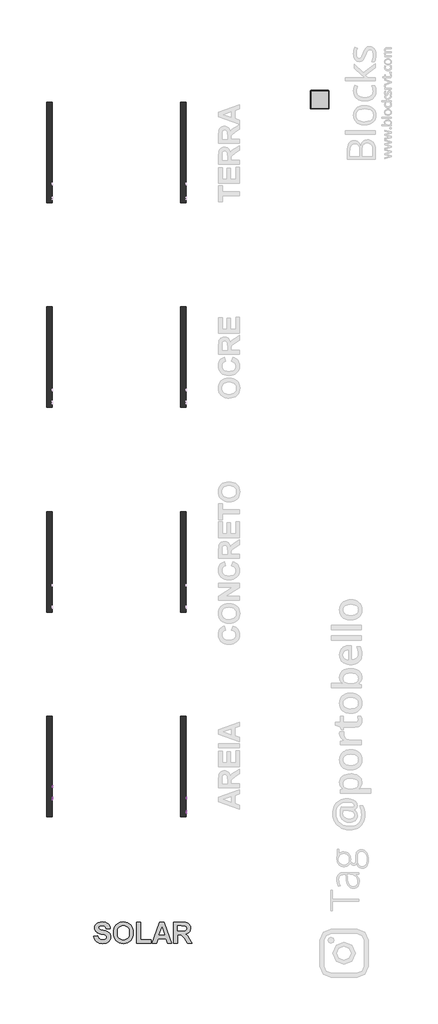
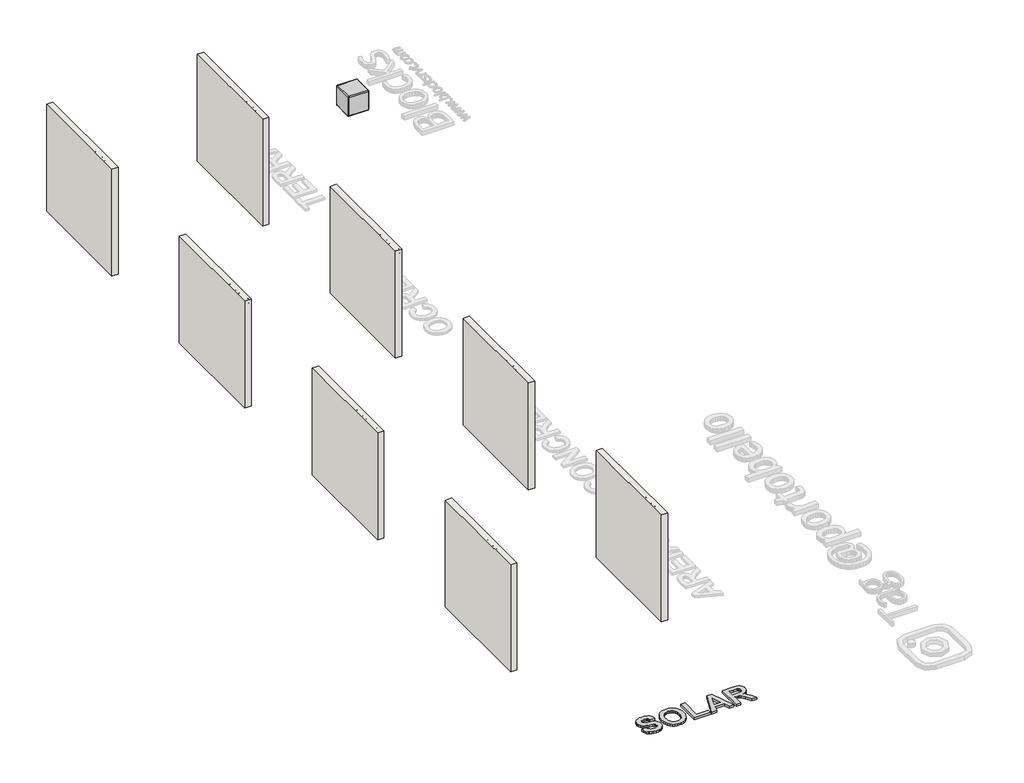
# One storey, part 1 of 6: 8 walls, 5 proxies, 1 furniture element.
"""IFC4 building model written with IfcOpenShell, lengths in millimetres."""

from ifc_helpers import new_model, si_unit, frame, origin, origin_with_axes, place, context, project, spatial, polyline, outline, extrude, transform, mapped, element, save
from components import branco_22256ad2

model = new_model("IFC4")

# Units and contexts
model_context = context("Model", 3, world=origin())
ifc_project = project(units=[si_unit("LENGTHUNIT", "METRE", prefix="MILLI")], contexts=[model_context])

# Site, building, storey
site = spatial("IfcSite", under=ifc_project)
building = spatial("IfcBuilding", under=site)
storey = spatial("IfcBuildingStorey", under=building, Name="PORTOBELLO - SHOWROOM", Elevation=0.0)

# Proxies
placement = place(None, origin())
element("IfcBuildingElementProxy", 1, Name="10mm Arial", ObjectType="10mm Arial", at=placement, inside=storey, context=model_context, shape_type="SweptSolid", body=[
    extrude(outline(polyline([(-9219.6411728, 2518.4745677), (-9179.5420353, 2618.9308778), (-9168.848932, 2618.9308778), (-9128.7497945, 2518.4745677), (-9142.0180718, 2518.4745677), (-9153.5205155, 2549.8671646), (-9194.8949773, 2549.8671646), (-9206.3728955, 2518.4745677), (-9219.6411728, 2518.4745677)]), holes=[polyline([(-9190.2841896, 2562.4242034), (-9158.1067778, 2562.4242034), (-9167.1566748, 2587.121348), (-9174.1954837, 2606.373839), (-9180.4494776, 2589.279589), (-9190.2841896, 2562.4242034)])]), frame((-22426.2609603, 0.0, 0.0), z_axis=(1.0, 0.0, 0.0), x_axis=(0.0, 1.0, 0.0)), (0.0, 0.0, 1.0), 20.0),
    extrude(outline(polyline([(-9116.9039943, 2518.4745677), (-9116.9039943, 2592.2471704), (-9105.9165854, 2592.2471704), (-9105.9165854, 2581.3333379), (-9098.1174871, 2591.3887791), (-9090.2693378, 2593.8168003), (-9077.6632481, 2589.9417766), (-9081.8571029, 2578.6845875), (-9090.6862708, 2581.2597615), (-9097.7863933, 2578.7826894), (-9102.3113418, 2571.9155588), (-9104.3469555, 2557.24933), (-9104.3469555, 2518.4745677), (-9116.9039943, 2518.4745677)])), frame((-22426.2609603, 0.0, 0.0), z_axis=(1.0, 0.0, 0.0), x_axis=(0.0, 1.0, 0.0)), (0.0, 0.0, 1.0), 20.0),
    extrude(outline(polyline([(-9018.1644668, 2540.4493855), (-9005.8526827, 2538.8797557), (-9010.2887264, 2529.602998), (-9017.3673891, 2522.6684224), (-9026.9292553, 2518.345809), (-9038.8149094, 2516.9049378), (-9053.5485834, 2519.391207), (-9064.8854802, 2526.8500144), (-9072.1143614, 2538.7969822), (-9074.5239884, 2554.7477324), (-9072.0898359, 2571.2349771), (-9064.7873783, 2583.5651553), (-9053.6037657, 2591.253889), (-9039.526148, 2593.8168003), (-9025.886923, 2591.2600204), (-9014.9884189, 2583.5896808), (-9007.8423111, 2571.2840281), (-9005.4602752, 2554.8213088), (-9005.5338516, 2551.4367944), (-9061.9669497, 2551.4367944), (-9059.7933802, 2542.0374095), (-9054.7441998, 2535.1273593), (-9047.4570707, 2530.8783223), (-9038.5696548, 2529.4619766), (-9026.2578707, 2532.0862015), (-9018.1644668, 2540.4493855)]), holes=[polyline([(-9061.9669497, 2563.9938332), (-9018.017314, 2563.9938332), (-9023.0450346, 2575.3736496), (-9030.3658863, 2579.7882335), (-9039.5751989, 2581.2597615), (-9055.0385054, 2576.5631347), (-9059.9037448, 2571.0724959), (-9061.9669497, 2563.9938332)])]), frame((-22426.2609603, 0.0, 0.0), z_axis=(1.0, 0.0, 0.0), x_axis=(0.0, 1.0, 0.0)), (0.0, 0.0, 1.0), 20.0),
    extrude(outline(polyline([(-22406.2609603, -8980.3461977), (-22406.2609603, -8992.9032364), (-22426.2609603, -8992.9032364), (-22426.2609603, -8980.3461977), (-22406.2609603, -8980.3461977)])), frame((0.0, 0.0, 2606.373839), z_axis=(0.0, 0.0, 1.0), x_axis=(1.0, 0.0, 0.0)), (0.0, 0.0, 1.0), 12.5570388),
    extrude(outline(polyline([(-22406.2609603, -8980.3461977), (-22406.2609603, -8992.9032364), (-22426.2609603, -8992.9032364), (-22426.2609603, -8980.3461977), (-22406.2609603, -8980.3461977)])), frame((0.0, 0.0, 2518.4745677), z_axis=(0.0, 0.0, 1.0), x_axis=(1.0, 0.0, 0.0)), (0.0, 0.0, 1.0), 73.7726028),
    extrude(outline(polyline([(-8914.4217441, 2527.8923467), (-8926.5986382, 2519.3820099), (-8940.0508565, 2516.9049378), (-8950.5446904, 2518.3948599), (-8958.2855407, 2522.8646261), (-8963.0588096, 2529.6520489), (-8964.6498992, 2538.0949407), (-8962.2464035, 2548.0277546), (-8955.9310959, 2555.2382417), (-8947.1387162, 2559.3585201), (-8936.2739347, 2561.246981), (-8914.4953205, 2565.563463), (-8914.4217441, 2568.3593662), (-8917.8798349, 2577.6299925), (-8931.7612489, 2581.2597615), (-8944.4654404, 2578.8440031), (-8950.5232306, 2570.2723526), (-8963.0802694, 2571.8419824), (-8957.6478786, 2584.1047156), (-8946.7095206, 2591.2906772), (-8930.1425681, 2593.8168003), (-8914.9245162, 2591.5849828), (-8906.3283403, 2585.9809138), (-8902.477842, 2577.4583142), (-8901.8647054, 2566.4709053), (-8901.8647054, 2550.8481832), (-8901.2270433, 2529.0327809), (-8898.7254457, 2518.4745677), (-8911.2824845, 2518.4745677), (-8914.4217441, 2527.8923467)]), holes=[polyline([(-8914.4217441, 2553.0064243), (-8934.6797793, 2549.1559261), (-8945.4832473, 2547.1203124), (-8950.3760778, 2543.8093744), (-8952.0928605, 2538.9778575), (-8948.3527268, 2532.1843033), (-8937.3775806, 2529.4619766), (-8924.6733891, 2532.4663462), (-8916.4818833, 2539.738147), (-8914.4953205, 2549.4502317), (-8914.4217441, 2553.0064243)])]), frame((-22426.2609603, 0.0, 0.0), z_axis=(1.0, 0.0, 0.0), x_axis=(0.0, 1.0, 0.0)), (0.0, 0.0, 1.0), 20.0),
    extrude(outline(polyline([(-8814.1125868, 2518.4745677), (-8854.0890969, 2618.9308778), (-8840.6491414, 2618.9308778), (-8813.8918576, 2546.5562266), (-8808.4717295, 2530.2467915), (-8803.1251779, 2546.5562266), (-8776.2943177, 2618.9308778), (-8762.8543621, 2618.9308778), (-8801.1386151, 2518.4745677), (-8814.1125868, 2518.4745677)])), frame((-22426.2609603, 0.0, 0.0), z_axis=(1.0, 0.0, 0.0), x_axis=(0.0, 1.0, 0.0)), (0.0, 0.0, 1.0), 20.0),
    extrude(outline(polyline([(-22406.2609603, -8740.1928312), (-22406.2609603, -8752.74987), (-22426.2609603, -8752.74987), (-22426.2609603, -8740.1928312), (-22406.2609603, -8740.1928312)])), frame((0.0, 0.0, 2518.4745677), z_axis=(0.0, 0.0, 1.0), x_axis=(1.0, 0.0, 0.0)), (0.0, 0.0, 1.0), 73.7726028),
    extrude(outline(polyline([(-22406.2609603, -8740.1928312), (-22406.2609603, -8752.74987), (-22426.2609603, -8752.74987), (-22426.2609603, -8740.1928312), (-22406.2609603, -8740.1928312)])), frame((0.0, 0.0, 2606.373839), z_axis=(0.0, 0.0, 1.0), x_axis=(1.0, 0.0, 0.0)), (0.0, 0.0, 1.0), 12.5570388),
    extrude(outline(polyline([(-8724.4965328, 2512.1960483), (-8711.939494, 2510.6264184), (-8707.8682666, 2504.0045425), (-8695.6791098, 2501.2086394), (-8682.8277654, 2504.3724245), (-8676.6963989, 2513.2506433), (-8675.8380075, 2527.8923467), (-8684.6794382, 2520.8290124), (-8695.4583806, 2518.4745677), (-8708.4047612, 2521.2152885), (-8718.0585979, 2529.4374511), (-8724.0642714, 2541.4917178), (-8726.0661626, 2555.728751), (-8722.4731818, 2575.1897086), (-8712.0743841, 2588.9607579), (-8696.0715173, 2593.8168003), (-8684.8695105, 2591.069948), (-8675.8380075, 2582.8293914), (-8675.8380075, 2592.2471704), (-8663.2809688, 2592.2471704), (-8663.2809688, 2528.5545343), (-8666.7145341, 2504.1639581), (-8677.5915784, 2492.8209299), (-8695.9243645, 2488.6516006), (-8707.6076835, 2490.1200629), (-8716.8077991, 2494.5254498), (-8722.7092394, 2501.880024), (-8724.4965328, 2512.1960483)]), holes=[polyline([(-8713.5091238, 2556.5871424), (-8712.1694202, 2545.0693702), (-8708.1503094, 2537.1507103), (-8702.1078477, 2532.5613824), (-8694.6980912, 2531.0316064), (-8687.3435169, 2532.5521853), (-8681.2703983, 2537.1139221), (-8677.1961052, 2544.9314145), (-8675.8380075, 2556.2192604), (-8677.2359591, 2567.1055017), (-8681.4298139, 2574.9444539), (-8687.5918373, 2579.6809346), (-8694.8942949, 2581.2597615), (-8702.0649281, 2579.7054601), (-8708.0767331, 2575.0425558), (-8712.1510261, 2567.3200996), (-8713.5091238, 2556.5871424)])]), frame((-22426.2609603, 0.0, 0.0), z_axis=(1.0, 0.0, 0.0), x_axis=(0.0, 1.0, 0.0)), (0.0, 0.0, 1.0), 20.0),
    extrude(outline(polyline([(-8597.3565152, 2527.8923467), (-8609.5334093, 2519.3820099), (-8622.9856276, 2516.9049378), (-8633.4794615, 2518.3948599), (-8641.2203118, 2522.8646261), (-8645.9935807, 2529.6520489), (-8647.5846703, 2538.0949407), (-8645.1811746, 2548.0277546), (-8638.865867, 2555.2382417), (-8630.0734873, 2559.3585201), (-8619.2087057, 2561.246981), (-8597.4300916, 2565.563463), (-8597.3565152, 2568.3593662), (-8600.814606, 2577.6299925), (-8614.6960199, 2581.2597615), (-8627.4002115, 2578.8440031), (-8633.4580017, 2570.2723526), (-8646.0150405, 2571.8419824), (-8640.5826497, 2584.1047156), (-8629.6442917, 2591.2906772), (-8613.0773392, 2593.8168003), (-8597.8592873, 2591.5849828), (-8589.2631113, 2585.9809138), (-8585.4126131, 2577.4583142), (-8584.7994765, 2566.4709053), (-8584.7994765, 2550.8481832), (-8584.1618143, 2529.0327809), (-8581.6602168, 2518.4745677), (-8594.2172555, 2518.4745677), (-8597.3565152, 2527.8923467)]), holes=[polyline([(-8597.3565152, 2553.0064243), (-8617.6145504, 2549.1559261), (-8628.4180184, 2547.1203124), (-8633.3108489, 2543.8093744), (-8635.0276315, 2538.9778575), (-8631.2874979, 2532.1843033), (-8620.3123517, 2529.4619766), (-8607.6081602, 2532.4663462), (-8599.4166544, 2539.738147), (-8597.4300916, 2549.4502317), (-8597.3565152, 2553.0064243)])]), frame((-22426.2609603, 0.0, 0.0), z_axis=(1.0, 0.0, 0.0), x_axis=(0.0, 1.0, 0.0)), (0.0, 0.0, 1.0), 20.0),
])
element("IfcBuildingElementProxy", 2, Name="10mm Arial", ObjectType="10mm Arial", at=placement, inside=storey, context=model_context, shape_type="SweptSolid", body=[
    extrude(outline(polyline([(-9219.6411728, 2518.4745677), (-9179.5420353, 2618.9308778), (-9168.848932, 2618.9308778), (-9128.7497945, 2518.4745677), (-9142.0180718, 2518.4745677), (-9153.5205155, 2549.8671646), (-9194.8949773, 2549.8671646), (-9206.3728955, 2518.4745677), (-9219.6411728, 2518.4745677)]), holes=[polyline([(-9190.2841896, 2562.4242034), (-9158.1067778, 2562.4242034), (-9167.1566748, 2587.121348), (-9174.1954837, 2606.373839), (-9180.4494776, 2589.279589), (-9190.2841896, 2562.4242034)])]), frame((-18826.2609603, 0.0, 0.0), z_axis=(1.0, 0.0, 0.0), x_axis=(0.0, 1.0, 0.0)), (0.0, 0.0, 1.0), 20.0),
    extrude(outline(polyline([(-9116.9039943, 2518.4745677), (-9116.9039943, 2592.2471704), (-9105.9165854, 2592.2471704), (-9105.9165854, 2581.3333379), (-9098.1174871, 2591.3887791), (-9090.2693378, 2593.8168003), (-9077.6632481, 2589.9417766), (-9081.8571029, 2578.6845875), (-9090.6862708, 2581.2597615), (-9097.7863933, 2578.7826894), (-9102.3113418, 2571.9155588), (-9104.3469555, 2557.24933), (-9104.3469555, 2518.4745677), (-9116.9039943, 2518.4745677)])), frame((-18826.2609603, 0.0, 0.0), z_axis=(1.0, 0.0, 0.0), x_axis=(0.0, 1.0, 0.0)), (0.0, 0.0, 1.0), 20.0),
    extrude(outline(polyline([(-9018.1644668, 2540.4493855), (-9005.8526827, 2538.8797557), (-9010.2887264, 2529.602998), (-9017.3673891, 2522.6684224), (-9026.9292553, 2518.345809), (-9038.8149094, 2516.9049378), (-9053.5485834, 2519.391207), (-9064.8854802, 2526.8500144), (-9072.1143614, 2538.7969822), (-9074.5239884, 2554.7477324), (-9072.0898359, 2571.2349771), (-9064.7873783, 2583.5651553), (-9053.6037657, 2591.253889), (-9039.526148, 2593.8168003), (-9025.886923, 2591.2600204), (-9014.9884189, 2583.5896808), (-9007.8423111, 2571.2840281), (-9005.4602752, 2554.8213088), (-9005.5338516, 2551.4367944), (-9061.9669497, 2551.4367944), (-9059.7933802, 2542.0374095), (-9054.7441998, 2535.1273593), (-9047.4570707, 2530.8783223), (-9038.5696548, 2529.4619766), (-9026.2578707, 2532.0862015), (-9018.1644668, 2540.4493855)]), holes=[polyline([(-9061.9669497, 2563.9938332), (-9018.017314, 2563.9938332), (-9023.0450346, 2575.3736496), (-9030.3658863, 2579.7882335), (-9039.5751989, 2581.2597615), (-9055.0385054, 2576.5631347), (-9059.9037448, 2571.0724959), (-9061.9669497, 2563.9938332)])]), frame((-18826.2609603, 0.0, 0.0), z_axis=(1.0, 0.0, 0.0), x_axis=(0.0, 1.0, 0.0)), (0.0, 0.0, 1.0), 20.0),
    extrude(outline(polyline([(-18806.2609603, -8980.3461977), (-18806.2609603, -8992.9032364), (-18826.2609603, -8992.9032364), (-18826.2609603, -8980.3461977), (-18806.2609603, -8980.3461977)])), frame((0.0, 0.0, 2606.373839), z_axis=(0.0, 0.0, 1.0), x_axis=(1.0, 0.0, 0.0)), (0.0, 0.0, 1.0), 12.5570388),
    extrude(outline(polyline([(-18806.2609603, -8980.3461977), (-18806.2609603, -8992.9032364), (-18826.2609603, -8992.9032364), (-18826.2609603, -8980.3461977), (-18806.2609603, -8980.3461977)])), frame((0.0, 0.0, 2518.4745677), z_axis=(0.0, 0.0, 1.0), x_axis=(1.0, 0.0, 0.0)), (0.0, 0.0, 1.0), 73.7726028),
    extrude(outline(polyline([(-8914.4217441, 2527.8923467), (-8926.5986382, 2519.3820099), (-8940.0508565, 2516.9049378), (-8950.5446904, 2518.3948599), (-8958.2855407, 2522.8646261), (-8963.0588096, 2529.6520489), (-8964.6498992, 2538.0949407), (-8962.2464035, 2548.0277546), (-8955.9310959, 2555.2382417), (-8947.1387162, 2559.3585201), (-8936.2739347, 2561.246981), (-8914.4953205, 2565.563463), (-8914.4217441, 2568.3593662), (-8917.8798349, 2577.6299925), (-8931.7612489, 2581.2597615), (-8944.4654404, 2578.8440031), (-8950.5232306, 2570.2723526), (-8963.0802694, 2571.8419824), (-8957.6478786, 2584.1047156), (-8946.7095206, 2591.2906772), (-8930.1425681, 2593.8168003), (-8914.9245162, 2591.5849828), (-8906.3283403, 2585.9809138), (-8902.477842, 2577.4583142), (-8901.8647054, 2566.4709053), (-8901.8647054, 2550.8481832), (-8901.2270433, 2529.0327809), (-8898.7254457, 2518.4745677), (-8911.2824845, 2518.4745677), (-8914.4217441, 2527.8923467)]), holes=[polyline([(-8914.4217441, 2553.0064243), (-8934.6797793, 2549.1559261), (-8945.4832473, 2547.1203124), (-8950.3760778, 2543.8093744), (-8952.0928605, 2538.9778575), (-8948.3527268, 2532.1843033), (-8937.3775806, 2529.4619766), (-8924.6733891, 2532.4663462), (-8916.4818833, 2539.738147), (-8914.4953205, 2549.4502317), (-8914.4217441, 2553.0064243)])]), frame((-18826.2609603, 0.0, 0.0), z_axis=(1.0, 0.0, 0.0), x_axis=(0.0, 1.0, 0.0)), (0.0, 0.0, 1.0), 20.0),
])
element("IfcBuildingElementProxy", 3, Name="10mm Arial Narrow", ObjectType="10mm Arial Narrow", at=placement, inside=storey, context=model_context, shape_type="SweptSolid", body=[
    extrude(outline(polyline([(-8520.6286257, 2518.4745677), (-8520.6286257, 2619.1931714), (-8489.3317411, 2619.1931714), (-8473.0360395, 2617.3148507), (-8461.5630534, 2607.8344075), (-8457.273375, 2590.8152987), (-8459.0596834, 2578.7394731), (-8464.4186086, 2569.1130794), (-8474.1623974, 2562.811821), (-8489.1032966, 2560.7114015), (-8510.8816641, 2560.7114015), (-8510.8816641, 2518.4745677), (-8520.6286257, 2518.4745677)]), holes=[polyline([(-8510.8816641, 2572.0828568), (-8487.9103091, 2572.0828568), (-8472.0461137, 2576.613671), (-8467.0203366, 2590.2822617), (-8469.4951511, 2600.4480381), (-8475.47278, 2606.247988), (-8488.1387536, 2607.8217162), (-8510.8816641, 2607.8217162), (-8510.8816641, 2572.0828568)])]), frame((-22426.2609603, 0.0, 0.0), z_axis=(1.0, 0.0, 0.0), x_axis=(0.0, 1.0, 0.0)), (0.0, 0.0, 1.0), 20.0),
    extrude(outline(polyline([(-8449.1509069, 2555.0256739), (-8447.1964381, 2571.6164494), (-8441.3330315, 2583.5685342), (-8432.4744647, 2590.7930888), (-8421.5345156, 2593.2012737), (-8410.72148, 2590.7930888), (-8401.8375306, 2583.5685342), (-8395.8979758, 2571.8068198), (-8393.9181242, 2555.7871552), (-8395.8630746, 2538.6252687), (-8401.6979257, 2526.4828135), (-8410.5469739, 2519.2582589), (-8421.5345156, 2516.8500741), (-8432.3951438, 2519.2646046), (-8441.2695747, 2526.5081962), (-8447.1805739, 2538.4666267), (-8449.1509069, 2555.0256739)]), holes=[polyline([(-8439.4039453, 2555.0510566), (-8438.0999084, 2542.4993052), (-8434.1877978, 2533.6280471), (-8428.3466011, 2528.3547886), (-8421.2553058, 2526.5970357), (-8414.5352326, 2528.3706528), (-8408.8431593, 2533.6915039), (-8404.9596042, 2542.5786262), (-8403.6650859, 2555.0510566), (-8404.9691228, 2567.5647339), (-8408.8812333, 2576.4233006), (-8414.7224301, 2581.6965592), (-8421.8137254, 2583.454312), (-8428.5813912, 2581.6870407), (-8434.263946, 2576.3852265), (-8438.1189455, 2567.5171413), (-8439.4039453, 2555.0510566)])]), frame((-22426.2609603, 0.0, 0.0), z_axis=(1.0, 0.0, 0.0), x_axis=(0.0, 1.0, 0.0)), (0.0, 0.0, 1.0), 20.0),
    extrude(outline(polyline([(-8322.4404054, 2526.5970357), (-8320.8159118, 2516.8500741), (-8328.1768985, 2516.8500741), (-8336.4516628, 2518.9695306), (-8340.766724, 2524.7694804), (-8341.9343288, 2539.4153056), (-8341.9343288, 2581.8298184), (-8350.0567968, 2581.8298184), (-8350.0567968, 2585.0788056), (-8351.6812904, 2580.2053248), (-8359.2453388, 2581.8298184), (-8365.3244985, 2579.5073002), (-8369.1953621, 2573.0220171), (-8371.1752137, 2557.6147106), (-8371.1752137, 2518.4745677), (-8380.9221754, 2518.4745677), (-8380.9221754, 2591.5767801), (-8371.1752137, 2591.5767801), (-8371.1752137, 2581.8805838), (-8364.9310664, 2590.967595), (-8358.5346228, 2593.2012737), (-8350.0567968, 2591.5767801), (-8341.9343288, 2591.5767801), (-8341.9343288, 2607.8217162), (-8332.1873671, 2615.9441842), (-8332.1873671, 2591.5767801), (-8322.4404054, 2591.5767801), (-8322.4404054, 2581.8298184), (-8332.1873671, 2581.8298184), (-8332.1873671, 2537.1816269), (-8331.3243549, 2529.1860724), (-8326.7047012, 2526.5970357), (-8322.4404054, 2526.5970357)])), frame((-22426.2609603, 0.0, 0.0), z_axis=(1.0, 0.0, 0.0), x_axis=(0.0, 1.0, 0.0)), (0.0, 0.0, 1.0), 20.0),
    extrude(outline(polyline([(-8315.942431, 2555.0256739), (-8313.9879621, 2571.6164494), (-8308.1245555, 2583.5685342), (-8299.2659888, 2590.7930888), (-8288.3260397, 2593.2012737), (-8277.5130041, 2590.7930888), (-8268.6290547, 2583.5685342), (-8262.6894999, 2571.8068198), (-8260.7096483, 2555.7871552), (-8262.6545987, 2538.6252687), (-8268.4894497, 2526.4828135), (-8277.3384979, 2519.2582589), (-8288.3260397, 2516.8500741), (-8299.1866678, 2519.2646046), (-8308.0610987, 2526.5081962), (-8313.9720979, 2538.4666267), (-8315.942431, 2555.0256739)]), holes=[polyline([(-8306.1954694, 2555.0510566), (-8304.8914325, 2542.4993052), (-8300.9793219, 2533.6280471), (-8295.1381252, 2528.3547886), (-8288.0468298, 2526.5970357), (-8281.3267567, 2528.3706528), (-8275.6346833, 2533.6915039), (-8271.7511283, 2542.5786262), (-8270.45661, 2555.0510566), (-8271.7606468, 2567.5647339), (-8275.6727574, 2576.4233006), (-8281.5139542, 2581.6965592), (-8288.6052495, 2583.454312), (-8295.3729153, 2581.6870407), (-8301.05547, 2576.3852265), (-8304.9104695, 2567.5171413), (-8306.1954694, 2555.0510566)])]), frame((-22426.2609603, 0.0, 0.0), z_axis=(1.0, 0.0, 0.0), x_axis=(0.0, 1.0, 0.0)), (0.0, 0.0, 1.0), 20.0),
    extrude(outline(polyline([(-8237.9667378, 2518.4745677), (-8247.7136994, 2518.4745677), (-8247.7136994, 2619.1931714), (-8237.9667378, 2619.1931714), (-8237.9667378, 2583.7842873), (-8230.5676771, 2590.8660641), (-8221.3664437, 2593.2012737), (-8208.4847171, 2589.0004347), (-8199.2073356, 2576.2710043), (-8195.729904, 2555.5840935), (-8197.662163, 2539.1297501), (-8203.45894, 2526.927011), (-8211.8320623, 2519.3693083), (-8221.4933573, 2516.8500741), (-8230.8341955, 2519.4644935), (-8237.9667378, 2527.2316035), (-8237.9667378, 2518.4745677)]), holes=[polyline([(-8237.9667378, 2555.5840935), (-8235.8853553, 2538.3365403), (-8229.996566, 2529.6048872), (-8221.5441227, 2526.5970357), (-8215.6013951, 2528.3865169), (-8210.3630378, 2533.7549607), (-8205.4768656, 2555.1779701), (-8210.1853588, 2576.613671), (-8215.4300618, 2581.7441518), (-8221.7471844, 2583.454312), (-8227.7248132, 2581.6648308), (-8233.0171088, 2576.2963871), (-8237.9667378, 2555.5840935)])]), frame((-22426.2609603, 0.0, 0.0), z_axis=(1.0, 0.0, 0.0), x_axis=(0.0, 1.0, 0.0)), (0.0, 0.0, 1.0), 20.0),
    extrude(outline(polyline([(-8143.7461085, 2541.2174782), (-8133.9991468, 2539.5929846), (-8137.6986772, 2529.706418), (-8143.5176641, 2522.5865671), (-8151.2213173, 2518.2841973), (-8160.5748469, 2516.8500741), (-8172.1684009, 2519.2646046), (-8181.3125232, 2526.5081962), (-8187.2520779, 2538.3143304), (-8189.2319295, 2554.4164888), (-8187.2425594, 2571.0834124), (-8181.2744491, 2583.2639417), (-8172.2604133, 2590.7169407), (-8161.1332666, 2593.2012737), (-8150.4503174, 2590.8026073), (-8141.7028001, 2583.6066083), (-8135.867949, 2571.8671037), (-8133.9229987, 2555.8379207), (-8133.9991468, 2552.5889335), (-8179.4849679, 2552.5889335), (-8173.4819563, 2533.1457756), (-8167.5519201, 2528.2342207), (-8160.4479334, 2526.5970357), (-8150.2694656, 2530.2521463), (-8143.7461085, 2541.2174782)]), holes=[polyline([(-8178.8250173, 2562.3358951), (-8143.7461085, 2562.3358951), (-8148.0104042, 2576.6009796), (-8153.8357367, 2581.7409789), (-8161.0571185, 2583.454312), (-8173.2662033, 2577.7432017), (-8178.8250173, 2562.3358951)])]), frame((-22426.2609603, 0.0, 0.0), z_axis=(1.0, 0.0, 0.0), x_axis=(0.0, 1.0, 0.0)), (0.0, 0.0, 1.0), 20.0),
    extrude(outline(polyline([(-22406.2609603, -8111.2562363), (-22406.2609603, -8121.0031979), (-22426.2609603, -8121.0031979), (-22426.2609603, -8111.2562363), (-22406.2609603, -8111.2562363)])), frame((0.0, 0.0, 2518.4745677), z_axis=(0.0, 0.0, 1.0), x_axis=(1.0, 0.0, 0.0)), (0.0, 0.0, 1.0), 100.7186038),
    extrude(outline(polyline([(-22406.2609603, -8085.2643385), (-22406.2609603, -8095.0113002), (-22426.2609603, -8095.0113002), (-22426.2609603, -8085.2643385), (-22406.2609603, -8085.2643385)])), frame((0.0, 0.0, 2518.4745677), z_axis=(0.0, 0.0, 1.0), x_axis=(1.0, 0.0, 0.0)), (0.0, 0.0, 1.0), 100.7186038),
    extrude(outline(polyline([(-8073.8928833, 2555.0256739), (-8071.9384144, 2571.6164494), (-8066.0750078, 2583.5685342), (-8057.2164411, 2590.7930888), (-8046.2764919, 2593.2012737), (-8035.4634563, 2590.7930888), (-8026.5795069, 2583.5685342), (-8020.6399522, 2571.8068198), (-8018.6601006, 2555.7871552), (-8020.6050509, 2538.6252687), (-8026.439902, 2526.4828135), (-8035.2889502, 2519.2582589), (-8046.2764919, 2516.8500741), (-8057.1371201, 2519.2646046), (-8066.011551, 2526.5081962), (-8071.9225502, 2538.4666267), (-8073.8928833, 2555.0256739)]), holes=[polyline([(-8064.1459216, 2555.0510566), (-8062.8418848, 2542.4993052), (-8058.9297742, 2533.6280471), (-8053.0885774, 2528.3547886), (-8045.9972821, 2526.5970357), (-8039.2772089, 2528.3706528), (-8033.5851356, 2533.6915039), (-8029.7015806, 2542.5786262), (-8028.4070622, 2555.0510566), (-8029.7110991, 2567.5647339), (-8033.6232097, 2576.4233006), (-8039.4644064, 2581.6965592), (-8046.5557018, 2583.454312), (-8053.3233675, 2581.6870407), (-8059.0059223, 2576.3852265), (-8062.8609218, 2567.5171413), (-8064.1459216, 2555.0510566)])]), frame((-22426.2609603, 0.0, 0.0), z_axis=(1.0, 0.0, 0.0), x_axis=(0.0, 1.0, 0.0)), (0.0, 0.0, 1.0), 20.0),
])
element("IfcBuildingElementProxy", 4, Name="10mm Arial Narrow", ObjectType="10mm Arial Narrow", at=placement, inside=storey, context=model_context, shape_type="SweptSolid", body=[
    extrude(outline(polyline([(-8830.6286257, 2518.4745677), (-8830.6286257, 2619.1931714), (-8799.3317411, 2619.1931714), (-8783.0360395, 2617.3148507), (-8771.5630534, 2607.8344075), (-8767.273375, 2590.8152987), (-8769.0596834, 2578.7394731), (-8774.4186086, 2569.1130794), (-8784.1623974, 2562.811821), (-8799.1032966, 2560.7114015), (-8820.8816641, 2560.7114015), (-8820.8816641, 2518.4745677), (-8830.6286257, 2518.4745677)]), holes=[polyline([(-8820.8816641, 2572.0828568), (-8797.9103091, 2572.0828568), (-8782.0461137, 2576.613671), (-8777.0203366, 2590.2822617), (-8779.4951511, 2600.4480381), (-8785.47278, 2606.247988), (-8798.1387536, 2607.8217162), (-8820.8816641, 2607.8217162), (-8820.8816641, 2572.0828568)])]), frame((-18826.2609603, 0.0, 0.0), z_axis=(1.0, 0.0, 0.0), x_axis=(0.0, 1.0, 0.0)), (0.0, 0.0, 1.0), 20.0),
    extrude(outline(polyline([(-8759.1509069, 2555.0256739), (-8757.1964381, 2571.6164494), (-8751.3330315, 2583.5685342), (-8742.4744647, 2590.7930888), (-8731.5345156, 2593.2012737), (-8720.72148, 2590.7930888), (-8711.8375306, 2583.5685342), (-8705.8979758, 2571.8068198), (-8703.9181242, 2555.7871552), (-8705.8630746, 2538.6252687), (-8711.6979257, 2526.4828135), (-8720.5469739, 2519.2582589), (-8731.5345156, 2516.8500741), (-8742.3951438, 2519.2646046), (-8751.2695747, 2526.5081962), (-8757.1805739, 2538.4666267), (-8759.1509069, 2555.0256739)]), holes=[polyline([(-8749.4039453, 2555.0510566), (-8748.0999084, 2542.4993052), (-8744.1877978, 2533.6280471), (-8738.3466011, 2528.3547886), (-8731.2553058, 2526.5970357), (-8724.5352326, 2528.3706528), (-8718.8431593, 2533.6915039), (-8714.9596042, 2542.5786262), (-8713.6650859, 2555.0510566), (-8714.9691228, 2567.5647339), (-8718.8812333, 2576.4233006), (-8724.7224301, 2581.6965592), (-8731.8137254, 2583.454312), (-8738.5813912, 2581.6870407), (-8744.263946, 2576.3852265), (-8748.1189455, 2567.5171413), (-8749.4039453, 2555.0510566)])]), frame((-18826.2609603, 0.0, 0.0), z_axis=(1.0, 0.0, 0.0), x_axis=(0.0, 1.0, 0.0)), (0.0, 0.0, 1.0), 20.0),
    extrude(outline(polyline([(-8632.4404054, 2526.5970357), (-8630.8159118, 2516.8500741), (-8638.1768985, 2516.8500741), (-8646.4516628, 2518.9695306), (-8650.766724, 2524.7694804), (-8651.9343288, 2539.4153056), (-8651.9343288, 2581.8298184), (-8660.0567968, 2581.8298184), (-8660.0567968, 2585.0788056), (-8661.6812904, 2580.2053248), (-8669.2453388, 2581.8298184), (-8675.3244985, 2579.5073002), (-8679.1953621, 2573.0220171), (-8681.1752137, 2557.6147106), (-8681.1752137, 2518.4745677), (-8690.9221754, 2518.4745677), (-8690.9221754, 2591.5767801), (-8681.1752137, 2591.5767801), (-8681.1752137, 2581.8805838), (-8674.9310664, 2590.967595), (-8668.5346228, 2593.2012737), (-8660.0567968, 2591.5767801), (-8651.9343288, 2591.5767801), (-8651.9343288, 2607.8217162), (-8642.1873671, 2615.9441842), (-8642.1873671, 2591.5767801), (-8632.4404054, 2591.5767801), (-8632.4404054, 2581.8298184), (-8642.1873671, 2581.8298184), (-8642.1873671, 2537.1816269), (-8641.3243549, 2529.1860724), (-8636.7047012, 2526.5970357), (-8632.4404054, 2526.5970357)])), frame((-18826.2609603, 0.0, 0.0), z_axis=(1.0, 0.0, 0.0), x_axis=(0.0, 1.0, 0.0)), (0.0, 0.0, 1.0), 20.0),
    extrude(outline(polyline([(-8625.942431, 2555.0256739), (-8623.9879621, 2571.6164494), (-8618.1245555, 2583.5685342), (-8609.2659888, 2590.7930888), (-8598.3260397, 2593.2012737), (-8587.5130041, 2590.7930888), (-8578.6290547, 2583.5685342), (-8572.6894999, 2571.8068198), (-8570.7096483, 2555.7871552), (-8572.6545987, 2538.6252687), (-8578.4894497, 2526.4828135), (-8587.3384979, 2519.2582589), (-8598.3260397, 2516.8500741), (-8609.1866678, 2519.2646046), (-8618.0610987, 2526.5081962), (-8623.9720979, 2538.4666267), (-8625.942431, 2555.0256739)]), holes=[polyline([(-8616.1954694, 2555.0510566), (-8614.8914325, 2542.4993052), (-8610.9793219, 2533.6280471), (-8605.1381252, 2528.3547886), (-8598.0468298, 2526.5970357), (-8591.3267567, 2528.3706528), (-8585.6346833, 2533.6915039), (-8581.7511283, 2542.5786262), (-8580.45661, 2555.0510566), (-8581.7606468, 2567.5647339), (-8585.6727574, 2576.4233006), (-8591.5139542, 2581.6965592), (-8598.6052495, 2583.454312), (-8605.3729153, 2581.6870407), (-8611.05547, 2576.3852265), (-8614.9104695, 2567.5171413), (-8616.1954694, 2555.0510566)])]), frame((-18826.2609603, 0.0, 0.0), z_axis=(1.0, 0.0, 0.0), x_axis=(0.0, 1.0, 0.0)), (0.0, 0.0, 1.0), 20.0),
    extrude(outline(polyline([(-8547.9667378, 2518.4745677), (-8557.7136994, 2518.4745677), (-8557.7136994, 2619.1931714), (-8547.9667378, 2619.1931714), (-8547.9667378, 2583.7842873), (-8540.5676771, 2590.8660641), (-8531.3664437, 2593.2012737), (-8518.4847171, 2589.0004347), (-8509.2073356, 2576.2710043), (-8505.729904, 2555.5840935), (-8507.662163, 2539.1297501), (-8513.45894, 2526.927011), (-8521.8320623, 2519.3693083), (-8531.4933573, 2516.8500741), (-8540.8341955, 2519.4644935), (-8547.9667378, 2527.2316035), (-8547.9667378, 2518.4745677)]), holes=[polyline([(-8547.9667378, 2555.5840935), (-8545.8853553, 2538.3365403), (-8539.996566, 2529.6048872), (-8531.5441227, 2526.5970357), (-8525.6013951, 2528.3865169), (-8520.3630378, 2533.7549607), (-8515.4768656, 2555.1779701), (-8520.1853588, 2576.613671), (-8525.4300618, 2581.7441518), (-8531.7471844, 2583.454312), (-8537.7248132, 2581.6648308), (-8543.0171088, 2576.2963871), (-8547.9667378, 2555.5840935)])]), frame((-18826.2609603, 0.0, 0.0), z_axis=(1.0, 0.0, 0.0), x_axis=(0.0, 1.0, 0.0)), (0.0, 0.0, 1.0), 20.0),
    extrude(outline(polyline([(-8453.7461085, 2541.2174782), (-8443.9991468, 2539.5929846), (-8447.6986772, 2529.706418), (-8453.5176641, 2522.5865671), (-8461.2213173, 2518.2841973), (-8470.5748469, 2516.8500741), (-8482.1684009, 2519.2646046), (-8491.3125232, 2526.5081962), (-8497.2520779, 2538.3143304), (-8499.2319295, 2554.4164888), (-8497.2425594, 2571.0834124), (-8491.2744491, 2583.2639417), (-8482.2604133, 2590.7169407), (-8471.1332666, 2593.2012737), (-8460.4503174, 2590.8026073), (-8451.7028001, 2583.6066083), (-8445.867949, 2571.8671037), (-8443.9229987, 2555.8379207), (-8443.9991468, 2552.5889335), (-8489.4849679, 2552.5889335), (-8483.4819563, 2533.1457756), (-8477.5519201, 2528.2342207), (-8470.4479334, 2526.5970357), (-8460.2694656, 2530.2521463), (-8453.7461085, 2541.2174782)]), holes=[polyline([(-8488.8250173, 2562.3358951), (-8453.7461085, 2562.3358951), (-8458.0104042, 2576.6009796), (-8463.8357367, 2581.7409789), (-8471.0571185, 2583.454312), (-8483.2662033, 2577.7432017), (-8488.8250173, 2562.3358951)])]), frame((-18826.2609603, 0.0, 0.0), z_axis=(1.0, 0.0, 0.0), x_axis=(0.0, 1.0, 0.0)), (0.0, 0.0, 1.0), 20.0),
    extrude(outline(polyline([(-18806.2609603, -8421.2562363), (-18806.2609603, -8431.0031979), (-18826.2609603, -8431.0031979), (-18826.2609603, -8421.2562363), (-18806.2609603, -8421.2562363)])), frame((0.0, 0.0, 2518.4745677), z_axis=(0.0, 0.0, 1.0), x_axis=(1.0, 0.0, 0.0)), (0.0, 0.0, 1.0), 100.7186038),
    extrude(outline(polyline([(-18806.2609603, -8395.2643385), (-18806.2609603, -8405.0113002), (-18826.2609603, -8405.0113002), (-18826.2609603, -8395.2643385), (-18806.2609603, -8395.2643385)])), frame((0.0, 0.0, 2518.4745677), z_axis=(0.0, 0.0, 1.0), x_axis=(1.0, 0.0, 0.0)), (0.0, 0.0, 1.0), 100.7186038),
    extrude(outline(polyline([(-8383.8928833, 2555.0256739), (-8381.9384144, 2571.6164494), (-8376.0750078, 2583.5685342), (-8367.2164411, 2590.7930888), (-8356.2764919, 2593.2012737), (-8345.4634563, 2590.7930888), (-8336.5795069, 2583.5685342), (-8330.6399522, 2571.8068198), (-8328.6601006, 2555.7871552), (-8330.6050509, 2538.6252687), (-8336.439902, 2526.4828135), (-8345.2889502, 2519.2582589), (-8356.2764919, 2516.8500741), (-8367.1371201, 2519.2646046), (-8376.011551, 2526.5081962), (-8381.9225502, 2538.4666267), (-8383.8928833, 2555.0256739)]), holes=[polyline([(-8374.1459216, 2555.0510566), (-8372.8418848, 2542.4993052), (-8368.9297742, 2533.6280471), (-8363.0885774, 2528.3547886), (-8355.9972821, 2526.5970357), (-8349.2772089, 2528.3706528), (-8343.5851356, 2533.6915039), (-8339.7015806, 2542.5786262), (-8338.4070622, 2555.0510566), (-8339.7110991, 2567.5647339), (-8343.6232097, 2576.4233006), (-8349.4644064, 2581.6965592), (-8356.5557018, 2583.454312), (-8363.3233675, 2581.6870407), (-8369.0059223, 2576.3852265), (-8372.8609218, 2567.5171413), (-8374.1459216, 2555.0510566)])]), frame((-18826.2609603, 0.0, 0.0), z_axis=(1.0, 0.0, 0.0), x_axis=(0.0, 1.0, 0.0)), (0.0, 0.0, 1.0), 20.0),
])
element("IfcBuildingElementProxy", 5, Name="550mm Arial", ObjectType="550mm Arial", at=placement, inside=storey, context=model_context, shape_type="SweptSolid", body=[
    extrude(outline(polyline([(-21301.2735091, -12510.8385246), (-21194.389191, -12501.931498), (-21187.9176796, -12527.660975), (-21178.8018946, -12549.7371794), (-21167.0418362, -12568.1601112), (-21152.6375043, -12582.9297703), (-21135.5454075, -12594.2549154), (-21115.7220546, -12602.3443047), (-21093.1674455, -12607.1979383), (-21067.8815802, -12608.8158161), (-21041.3083712, -12607.384951), (-21018.231866, -12603.0923557), (-20998.6520646, -12595.9380303), (-20982.5689669, -12585.9219746), (-20970.0260643, -12573.9922999), (-20961.0668482, -12561.0971175), (-20955.6913185, -12547.2364273), (-20953.8994753, -12532.4102294), (-20956.874283, -12514.2308491), (-20965.7987061, -12498.9392938), (-20982.1688466, -12486.0136675), (-21007.4808067, -12474.9320739), (-21100.1695513, -12451.1336125), (-21143.1911851, -12439.5214246), (-21179.2889977, -12426.5349104), (-21208.4629888, -12412.1740698), (-21230.7131585, -12396.4389028), (-21253.7896637, -12372.075054), (-21270.2728817, -12345.1887074), (-21280.1628125, -12315.779863), (-21283.4594561, -12283.8485209), (-21277.4054615, -12242.514351), (-21259.2434778, -12203.9636269), (-21245.7959553, -12186.4888063), (-21229.6693663, -12171.2233459), (-21210.8637108, -12158.1672455), (-21189.3789886, -12147.3205052), (-21139.033413, -12132.7074148), (-21079.2937079, -12127.8363847), (-21029.8744978, -12130.8720803), (-20986.9702905, -12139.979167), (-20950.5810861, -12155.1576447), (-20920.7068844, -12176.4075137), (-20897.2520045, -12202.7197746), (-20880.1207655, -12233.0854284), (-20869.3131674, -12267.5044752), (-20864.8292103, -12305.9769149), (-20971.7135283, -12305.9769149), (-20983.5257764, -12269.2528271), (-20992.6546087, -12255.3921369), (-21003.9319133, -12244.5323492), (-21017.8273965, -12236.3429298), (-21034.8107649, -12230.4933445), (-21078.0411573, -12225.8136763), (-21123.5504958, -12230.7890856), (-21142.1299964, -12237.0083473), (-21157.9260513, -12245.7153137), (-21171.9128663, -12260.6763348), (-21176.575138, -12279.9516968), (-21172.3303832, -12298.1484736), (-21159.5961187, -12313.4922185), (-21144.9612827, -12322.4035941), (-21122.6284794, -12331.4628403), (-21054.8689711, -12350.0249444), (-20982.5515704, -12369.3350995), (-20931.9102536, -12389.5498745), (-20896.4213199, -12414.0268009), (-20869.5610681, -12446.1234101), (-20859.6972321, -12465.1291258), (-20852.6516349, -12486.2398224), (-20847.0151572, -12534.7761583), (-20848.6808756, -12558.3310682), (-20853.6780306, -12581.1205306), (-20862.0066223, -12603.1445454), (-20873.6666506, -12624.4031125), (-20888.3754219, -12643.9394226), (-20905.8502425, -12660.7966661), (-20926.0911123, -12674.9748431), (-20949.0980313, -12686.4739535), (-20974.9884263, -12695.3635835), (-21003.8797237, -12701.7133192), (-21070.6650259, -12706.7931077), (-21120.6104812, -12703.6660803), (-21164.3975627, -12694.2849982), (-21202.0262704, -12678.6498614), (-21233.4966043, -12656.7606698), (-21259.0260211, -12628.8783714), (-21278.8319775, -12595.2639145), (-21292.9144735, -12555.9172988), (-21301.2735091, -12510.8385246)])), origin_with_axes(), (0.0, 0.0, 1.0), 50.0),
    extrude(outline(polyline([(-20775.7589452, -12420.7940535), (-20774.1845587, -12379.7208316), (-20769.4613991, -12342.0921239), (-20761.5894665, -12307.9079304), (-20750.5687608, -12277.168251), (-20728.3533842, -12236.6169253), (-20699.2837723, -12200.4147335), (-20665.238751, -12170.7884325), (-20628.0971464, -12149.9647787), (-20601.3586703, -12140.2836063), (-20572.6369891, -12133.3684832), (-20509.2440114, -12127.8363847), (-20451.4005287, -12132.6334796), (-20399.6458337, -12147.0247641), (-20353.9799263, -12171.0102383), (-20314.4028065, -12204.5899022), (-20282.4366714, -12246.7112654), (-20259.6037177, -12296.3218373), (-20245.9039455, -12353.4216181), (-20241.3373547, -12418.0106077), (-20245.8691524, -12482.1603347), (-20259.4645454, -12538.9165339), (-20282.1235337, -12588.2792052), (-20313.8461174, -12630.2483487), (-20353.1622891, -12663.7366808), (-20398.6020415, -12687.656918), (-20450.1653746, -12702.0090603), (-20507.8522885, -12706.7931077), (-20566.1480811, -12702.0308059), (-20618.1463277, -12687.7439006), (-20663.8470281, -12663.9323918), (-20703.2501825, -12630.5962794), (-20734.9727662, -12588.9098296), (-20757.6317545, -12540.0473087), (-20771.2271475, -12484.0087167), (-20775.7589452, -12420.7940535)]), holes=[polyline([(-20668.8746271, -12416.8972294), (-20666.0346426, -12461.2844913), (-20657.514689, -12499.9482929), (-20643.3147663, -12532.8886341), (-20623.4348747, -12560.1055149), (-20599.1797541, -12581.4162717), (-20571.854145, -12596.6382408), (-20541.4580472, -12605.7714223), (-20507.9914608, -12608.8158161), (-20474.5596674, -12605.793168), (-20444.2679489, -12596.7252235), (-20417.1163051, -12581.6119827), (-20393.1047361, -12560.4534456), (-20373.4683959, -12533.2496122), (-20359.4424386, -12500.0004825), (-20351.0268643, -12460.7060565), (-20348.2216728, -12415.3663342), (-20350.952929, -12370.6572363), (-20359.1466975, -12332.002133), (-20372.8029784, -12299.4010242), (-20391.9217716, -12272.8539101), (-20415.5636642, -12252.2738078), (-20442.7892433, -12237.5737347), (-20473.5985088, -12228.7536909), (-20507.9914608, -12225.8136763), (-20542.4192058, -12228.788484), (-20573.3328506, -12237.712907), (-20600.732395, -12252.5869454), (-20624.6178391, -12273.4105992), (-20643.9801839, -12300.2273597), (-20657.8104301, -12333.0807182), (-20666.1085778, -12371.9706748), (-20668.8746271, -12416.8972294)])]), origin_with_axes(), (0.0, 0.0, 1.0), 50.0),
    extrude(outline(polyline([(-20152.2670896, -12697.8860812), (-20152.2670896, -12136.7434112), (-20045.3827716, -12136.7434112), (-20045.3827716, -12599.9087896), (-19760.3579233, -12599.9087896), (-19760.3579233, -12697.8860812), (-20152.2670896, -12697.8860812)])), origin_with_axes(), (0.0, 0.0, 1.0), 50.0),
    extrude(outline(polyline([(-19208.1222798, -12697.8860812), (-19320.4343172, -12697.8860812), (-19364.4127606, -12573.1877101), (-19576.372157, -12573.1877101), (-19619.7939112, -12697.8860812), (-19733.6368438, -12697.8860812), (-19528.7752341, -12136.7434112), (-19414.9323016, -12136.7434112), (-19208.1222798, -12697.8860812)]), holes=[polyline([(-19398.6491437, -12475.2104185), (-19470.8795618, -12270.3488088), (-19542.1357739, -12475.2104185), (-19398.6491437, -12475.2104185)])]), origin_with_axes(), (0.0, 0.0, 1.0), 50.0),
    extrude(outline(polyline([(-19154.6801208, -12697.8860812), (-19154.6801208, -12136.7434112), (-18918.6439183, -12136.7434112), (-18841.7512286, -12140.5358561), (-18789.2136894, -12151.9131908), (-18770.0427066, -12160.9767861), (-18752.8897219, -12172.9977926), (-18737.7547355, -12187.9762102), (-18724.6377472, -12205.912039), (-18714.0432567, -12226.031133), (-18706.4757635, -12247.5593465), (-18701.9352676, -12270.4966794), (-18700.4217689, -12294.8431317), (-18702.6093833, -12325.1913891), (-18709.1722266, -12352.7735971), (-18720.1102987, -12377.5897559), (-18735.4235996, -12399.6398655), (-18755.0947329, -12418.3933315), (-18779.1063019, -12433.3195595), (-18807.4583067, -12444.4185495), (-18840.1507473, -12451.6903017), (-18809.1501198, -12474.0274541), (-18784.0643147, -12498.4521908), (-18758.1086828, -12533.8367453), (-18724.4985749, -12589.0533511), (-18655.8866364, -12697.8860812), (-18780.7241798, -12697.8860812), (-18862.0007967, -12569.7084029), (-18925.8112912, -12493.6507468), (-18943.520965, -12480.4467759), (-18962.274431, -12472.1486282), (-18987.1688742, -12467.7647011), (-19023.3014798, -12466.303392), (-19047.7958027, -12466.303392), (-19047.7958027, -12697.8860812), (-19154.6801208, -12697.8860812)]), holes=[polyline([(-19047.7958027, -12368.3261004), (-18959.6997437, -12368.3261004), (-18890.1657887, -12366.7082226), (-18852.7458394, -12361.854589), (-18833.7140289, -12353.0519417), (-18819.34449, -12339.5870227), (-18810.3156878, -12321.8251593), (-18807.306087, -12300.1316787), (-18811.2724972, -12276.1070623), (-18823.171728, -12257.1970275), (-18842.3079177, -12243.8538843), (-18867.9852051, -12236.5299426), (-18954.8287135, -12234.7207028), (-19047.7958027, -12234.7207028), (-19047.7958027, -12368.3261004)])]), origin_with_axes(), (0.0, 0.0, 1.0), 50.0),
])

# Furniture
branco_shape = branco_22256ad2(model_context)
element("IfcFurniture", 6, ObjectType="Blks_Mob_Blocks Revit_Cubo : Branco", at=placement, inside=storey, context=model_context, shape_type="MappedRepresentation", body=[
    mapped(branco_shape, transform((-15223.9911761, 9971.6583301, 0.0), x_axis=(1.0, 0.0, 0.0), y_axis=(0.0, 1.0, 0.0), z_axis=(0.0, 0.0, 1.0))),
])

# Walls
element("IfcWall", 7, ObjectType="PORTOBELLO - SOLAR - AREIA VIGA - 09X19 - MATE", at=placement, inside=storey, context=model_context, shape_type="SweptSolid", body=[
    extrude(outline(polyline([(-22426.2609603, -6597.5729659), (-22426.2609603, -9297.5729659), (-22576.2609603, -9297.5729659), (-22576.2609603, -6597.5729659), (-22426.2609603, -6597.5729659)])), origin_with_axes(), (0.0, 0.0, 1.0), 2700.0),
])
element("IfcWall", 8, ObjectType="PORTOBELLO - SOLAR - CONCRETO VIGA - 09X19 - MATE", at=placement, inside=storey, context=model_context, shape_type="SweptSolid", body=[
    extrude(outline(polyline([(-22426.2609603, -1097.5729659), (-22426.2609603, -3797.5729659), (-22576.2609603, -3797.5729659), (-22576.2609603, -1097.5729659), (-22426.2609603, -1097.5729659)])), origin_with_axes(), (0.0, 0.0, 1.0), 2700.0),
])
element("IfcWall", 9, ObjectType="PORTOBELLO - SOLAR - OCRE VIGA - 09X19 - MATE", at=placement, inside=storey, context=model_context, shape_type="SweptSolid", body=[
    extrude(outline(polyline([(-22426.2609603, 4402.4270341), (-22426.2609603, 1702.4270341), (-22576.2609603, 1702.4270341), (-22576.2609603, 4402.4270341), (-22426.2609603, 4402.4270341)])), origin_with_axes(), (0.0, 0.0, 1.0), 2700.0),
])
element("IfcWall", 10, ObjectType="PORTOBELLO - SOLAR - TERRA VIGA - 09X19 - MATE", at=placement, inside=storey, context=model_context, shape_type="SweptSolid", body=[
    extrude(outline(polyline([(-22426.2609603, 9902.4270341), (-22426.2609603, 7202.4270341), (-22576.2609603, 7202.4270341), (-22576.2609603, 9902.4270341), (-22426.2609603, 9902.4270341)])), origin_with_axes(), (0.0, 0.0, 1.0), 2700.0),
])
element("IfcWall", 11, ObjectType="PORTOBELLO - SOLAR - AREIA - 09X19 - MATE", at=placement, inside=storey, context=model_context, shape_type="SweptSolid", body=[
    extrude(outline(polyline([(-18826.2609603, -6597.5729659), (-18826.2609603, -9297.5729659), (-18976.2609603, -9297.5729659), (-18976.2609603, -6597.5729659), (-18826.2609603, -6597.5729659)])), origin_with_axes(), (0.0, 0.0, 1.0), 2700.0),
])
element("IfcWall", 12, ObjectType="PORTOBELLO - SOLAR - CONCRETO - 09X19 - MATE", at=placement, inside=storey, context=model_context, shape_type="SweptSolid", body=[
    extrude(outline(polyline([(-18826.2609603, -1097.5729659), (-18826.2609603, -3797.5729659), (-18976.2609603, -3797.5729659), (-18976.2609603, -1097.5729659), (-18826.2609603, -1097.5729659)])), origin_with_axes(), (0.0, 0.0, 1.0), 2700.0),
])
element("IfcWall", 13, ObjectType="PORTOBELLO - SOLAR - OCRE - 09X19 - MATE", at=placement, inside=storey, context=model_context, shape_type="SweptSolid", body=[
    extrude(outline(polyline([(-18826.2609603, 4402.4270341), (-18826.2609603, 1702.4270341), (-18976.2609603, 1702.4270341), (-18976.2609603, 4402.4270341), (-18826.2609603, 4402.4270341)])), origin_with_axes(), (0.0, 0.0, 1.0), 2700.0),
])
element("IfcWall", 14, ObjectType="PORTOBELLO - SOLAR - TERRA - 09X19 - MATE", at=placement, inside=storey, context=model_context, shape_type="SweptSolid", body=[
    extrude(outline(polyline([(-18826.2609603, 9902.4270341), (-18826.2609603, 7202.4270341), (-18976.2609603, 7202.4270341), (-18976.2609603, 9902.4270341), (-18826.2609603, 9902.4270341)])), origin_with_axes(), (0.0, 0.0, 1.0), 2700.0),
])

save(model, "model.ifc")
